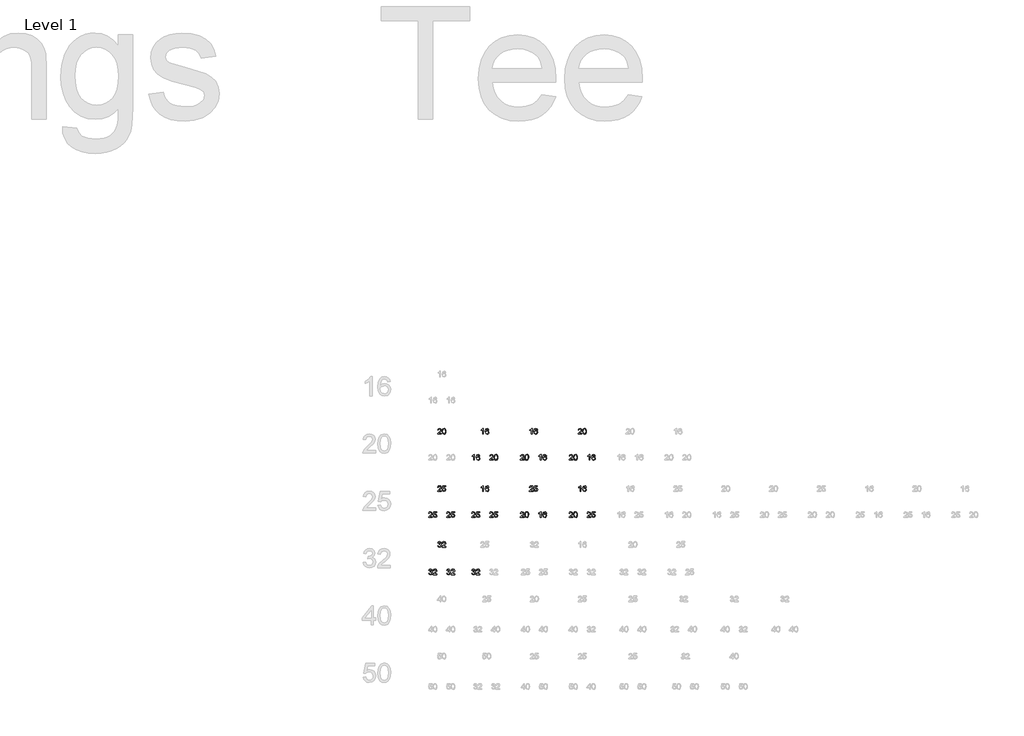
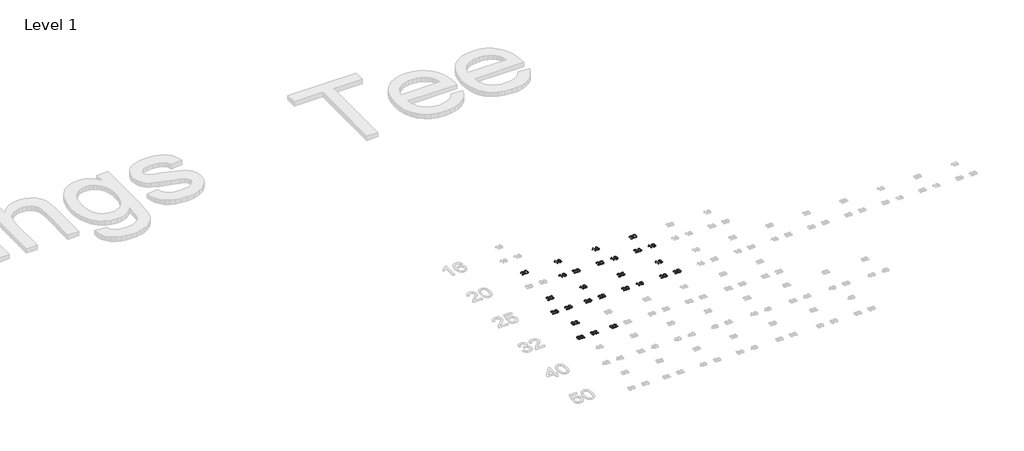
# One storey, part 28 of 58: 26 proxies.
"""IFC4 building model written with IfcOpenShell, lengths in millimetres."""

from ifc_helpers import new_model, si_unit, frame, origin, place, context, project, spatial, polyline, outline, extrude, element, save

model = new_model("IFC4")

# Units and contexts
model_context = context("Model", 3, world=origin())
ifc_project = project(units=[si_unit("LENGTHUNIT", "METRE", prefix="MILLI")], contexts=[model_context])

# Site, building, storey
site = spatial("IfcSite", under=ifc_project)
building = spatial("IfcBuilding", under=site)
storey = spatial("IfcBuildingStorey", under=building, Name="Level 1", Elevation=27.3876384)

# Proxies
placement = place(None, origin())
element("IfcBuildingElementProxy", 1, Name="30mm Arial", ObjectType="30mm Arial", at=placement, inside=storey, context=model_context, shape_type="SweptSolid", body=[
    extrude(outline(polyline([(13113.6749248, 29943.1799576), (13113.6749248, 29939.412846), (13093.8975887, 29939.412846), (13094.3022589, 29942.0100929), (13096.5904849, 29946.0089702), (13101.3067321, 29950.3757295), (13107.8108858, 29956.6517963), (13109.4369242, 29960.9192274), (13107.9028563, 29964.3736394), (13103.8966213, 29965.7826274), (13099.7211607, 29964.4067488), (13098.1355893, 29960.6028489), (13094.3684777, 29961.0737379), (13097.2563513, 29967.3792353), (13103.9775554, 29969.549739), (13110.7208324, 29967.1364332), (13113.2040358, 29961.1473143), (13112.5344906, 29957.5751801), (13110.3088045, 29953.8816449), (13104.9119756, 29948.7202605), (13100.5783257, 29945.0966228), (13098.8787109, 29943.1799576), (13113.6749248, 29943.1799576)])), frame((0.0, 0.0, 27.3876384), z_axis=(0.0, 0.0, 1.0), x_axis=(1.0, 0.0, 0.0)), (0.0, 0.0, 1.0), 2.0),
    extrude(outline(polyline([(13117.4420364, 29954.2384904), (13118.5493612, 29962.909469), (13121.8382262, 29967.9089853), (13127.3307044, 29969.549739), (13131.7305731, 29968.5785306), (13134.7692784, 29965.7789486), (13136.535112, 29961.3202188), (13137.2193725, 29954.2384904), (13136.1230841, 29945.6043), (13132.8452555, 29940.5937472), (13127.3307044, 29938.941957), (13120.4439535, 29941.8114366), (13117.4420364, 29954.2384904)]), holes=[polyline([(13121.209148, 29954.245848), (13122.9749816, 29944.8906089), (13127.3307044, 29942.7090687), (13131.6864273, 29944.8979666), (13133.4522608, 29954.245848), (13131.7452884, 29963.4944014), (13127.2865586, 29965.7826274), (13123.0338427, 29963.7666341), (13121.209148, 29954.245848)])]), frame((0.0, 0.0, 27.3876384), z_axis=(0.0, 0.0, 1.0), x_axis=(1.0, 0.0, 0.0)), (0.0, 0.0, 1.0), 2.0),
])
element("IfcBuildingElementProxy", 2, Name="30mm Arial", ObjectType="30mm Arial", at=placement, inside=storey, context=model_context, shape_type="SweptSolid", body=[
    extrude(outline(polyline([(13286.5669615, 29803.0942054), (13282.7998498, 29803.0942054), (13282.7998498, 29826.579792), (13279.2313945, 29824.0377274), (13275.2656266, 29822.1357775), (13275.2656266, 29825.6968752), (13280.7875353, 29829.2211847), (13284.1389403, 29833.2310985), (13286.5669615, 29833.2310985), (13286.5669615, 29803.0942054)])), frame((0.0, 0.0, 27.3876384), z_axis=(0.0, 0.0, 1.0), x_axis=(1.0, 0.0, 0.0)), (0.0, 0.0, 1.0), 2.0),
    extrude(outline(polyline([(13314.8202987, 29825.2259863), (13311.0531871, 29824.7550973), (13309.6258049, 29827.8968096), (13305.8513357, 29829.4639869), (13302.452106, 29828.5516395), (13299.8806109, 29825.1266581), (13298.8100743, 29818.4128117), (13302.1320487, 29821.4184076), (13306.2486482, 29822.4006525), (13312.6497949, 29819.715114), (13315.2911877, 29812.7768596), (13314.0477465, 29807.578687), (13310.626444, 29803.899867), (13305.6894676, 29802.6233165), (13298.0117703, 29806.0078308), (13295.0429626, 29817.1620129), (13298.3391853, 29829.7950807), (13306.0867801, 29833.2310985), (13312.0391108, 29831.1047406), (13314.8202987, 29825.2259863)]), holes=[polyline([(13298.8100743, 29812.8357207), (13299.6819546, 29809.5726074), (13301.9996112, 29807.2034473), (13305.395162, 29806.3904281), (13309.8354977, 29808.0753277), (13311.524076, 29812.6517797), (13309.8575706, 29817.0332542), (13305.2406516, 29818.6335409), (13300.6825936, 29817.0332542), (13298.8100743, 29812.8357207)])]), frame((0.0, 0.0, 27.3876384), z_axis=(0.0, 0.0, 1.0), x_axis=(1.0, 0.0, 0.0)), (0.0, 0.0, 1.0), 2.0),
])
element("IfcBuildingElementProxy", 3, Name="30mm Arial", ObjectType="30mm Arial", at=placement, inside=storey, context=model_context, shape_type="SweptSolid", body=[
    extrude(outline(polyline([(13385.49674, 29806.8613171), (13385.49674, 29803.0942054), (13365.7194039, 29803.0942054), (13366.1240741, 29805.6914523), (13368.4123001, 29809.6903296), (13373.1285473, 29814.0570889), (13379.632701, 29820.3331557), (13381.2587394, 29824.6005869), (13379.7246715, 29828.0549988), (13375.7184365, 29829.4639869), (13371.5429759, 29828.0881082), (13369.9574045, 29824.2842084), (13366.1902929, 29824.7550973), (13369.0781665, 29831.0605947), (13375.7993706, 29833.2310985), (13382.5426475, 29830.8177926), (13385.025851, 29824.8286737), (13384.3563058, 29821.2565395), (13382.1306197, 29817.5630043), (13376.7337908, 29812.4016199), (13372.4001409, 29808.7779823), (13370.7005261, 29806.8613171), (13385.49674, 29806.8613171)])), frame((0.0, 0.0, 27.3876384), z_axis=(0.0, 0.0, 1.0), x_axis=(1.0, 0.0, 0.0)), (0.0, 0.0, 1.0), 2.0),
    extrude(outline(polyline([(13389.2638516, 29817.9198498), (13390.3711764, 29826.5908285), (13393.6600414, 29831.5903448), (13399.1525196, 29833.2310985), (13403.5523883, 29832.25989), (13406.5910936, 29829.460308), (13408.3569271, 29825.0015783), (13409.0411877, 29817.9198498), (13407.9448993, 29809.2856594), (13404.6670707, 29804.2751066), (13399.1525196, 29802.6233165), (13392.2657687, 29805.492796), (13389.2638516, 29817.9198498)]), holes=[polyline([(13393.0309632, 29817.9272075), (13394.7967968, 29808.5719683), (13399.1525196, 29806.3904281), (13403.5082425, 29808.579326), (13405.274076, 29817.9272075), (13403.5671036, 29827.1757608), (13399.1083738, 29829.4639869), (13394.8556579, 29827.4479935), (13393.0309632, 29817.9272075)])]), frame((0.0, 0.0, 27.3876384), z_axis=(0.0, 0.0, 1.0), x_axis=(1.0, 0.0, 0.0)), (0.0, 0.0, 1.0), 2.0),
])
element("IfcBuildingElementProxy", 4, Name="30mm Arial", ObjectType="30mm Arial", at=placement, inside=storey, context=model_context, shape_type="SweptSolid", body=[
    extrude(outline(polyline([(13333.4951463, 29939.412846), (13329.7280347, 29939.412846), (13329.7280347, 29962.8984326), (13326.1595793, 29960.356368), (13322.1938114, 29958.4544181), (13322.1938114, 29962.0155158), (13327.7157201, 29965.5398253), (13331.0671251, 29969.549739), (13333.4951463, 29969.549739), (13333.4951463, 29939.412846)])), frame((0.0, 0.0, 27.3876384), z_axis=(0.0, 0.0, 1.0), x_axis=(1.0, 0.0, 0.0)), (0.0, 0.0, 1.0), 2.0),
    extrude(outline(polyline([(13361.7484835, 29961.5446268), (13357.9813719, 29961.0737379), (13356.5539897, 29964.2154501), (13352.7795205, 29965.7826274), (13349.3802908, 29964.8702801), (13346.8087957, 29961.4452987), (13345.7382591, 29954.7314523), (13349.0602335, 29957.7370482), (13353.176833, 29958.7192931), (13359.5779797, 29956.0337545), (13362.2193725, 29949.0955001), (13360.9759313, 29943.8973275), (13357.5546288, 29940.2185076), (13352.6176524, 29938.941957), (13344.9399552, 29942.3264714), (13341.9711475, 29953.4806535), (13345.2673701, 29966.1137212), (13353.0149649, 29969.549739), (13358.9672956, 29967.4233811), (13361.7484835, 29961.5446268)]), holes=[polyline([(13345.7382591, 29949.1543612), (13346.6101394, 29945.8912479), (13348.927796, 29943.5220879), (13352.3233468, 29942.7090687), (13356.7636825, 29944.3939682), (13358.4522608, 29948.9704202), (13356.7857554, 29953.3518948), (13352.1688364, 29954.9521815), (13347.6107784, 29953.3518948), (13345.7382591, 29949.1543612)])]), frame((0.0, 0.0, 27.3876384), z_axis=(0.0, 0.0, 1.0), x_axis=(1.0, 0.0, 0.0)), (0.0, 0.0, 1.0), 2.0),
])
element("IfcBuildingElementProxy", 5, Name="30mm Arial", ObjectType="30mm Arial", at=placement, inside=storey, context=model_context, shape_type="SweptSolid", body=[
    extrude(outline(polyline([(13546.74674, 29806.8613171), (13546.74674, 29803.0942054), (13526.9694039, 29803.0942054), (13527.3740741, 29805.6914523), (13529.6623001, 29809.6903296), (13534.3785473, 29814.0570889), (13540.882701, 29820.3331557), (13542.5087394, 29824.6005869), (13540.9746715, 29828.0549988), (13536.9684365, 29829.4639869), (13532.7929759, 29828.0881082), (13531.2074045, 29824.2842084), (13527.4402929, 29824.7550973), (13530.3281665, 29831.0605947), (13537.0493706, 29833.2310985), (13543.7926475, 29830.8177926), (13546.275851, 29824.8286737), (13545.6063058, 29821.2565395), (13543.3806197, 29817.5630043), (13537.9837908, 29812.4016199), (13533.6501409, 29808.7779823), (13531.9505261, 29806.8613171), (13546.74674, 29806.8613171)])), frame((0.0, 0.0, 27.3876384), z_axis=(0.0, 0.0, 1.0), x_axis=(1.0, 0.0, 0.0)), (0.0, 0.0, 1.0), 2.0),
    extrude(outline(polyline([(13550.5138516, 29817.9198498), (13551.6211764, 29826.5908285), (13554.9100414, 29831.5903448), (13560.4025196, 29833.2310985), (13564.8023883, 29832.25989), (13567.8410936, 29829.460308), (13569.6069271, 29825.0015783), (13570.2911877, 29817.9198498), (13569.1948993, 29809.2856594), (13565.9170707, 29804.2751066), (13560.4025196, 29802.6233165), (13553.5157687, 29805.492796), (13550.5138516, 29817.9198498)]), holes=[polyline([(13554.2809632, 29817.9272075), (13556.0467968, 29808.5719683), (13560.4025196, 29806.3904281), (13564.7582425, 29808.579326), (13566.524076, 29817.9272075), (13564.8171036, 29827.1757608), (13560.3583738, 29829.4639869), (13556.1056579, 29827.4479935), (13554.2809632, 29817.9272075)])]), frame((0.0, 0.0, 27.3876384), z_axis=(0.0, 0.0, 1.0), x_axis=(1.0, 0.0, 0.0)), (0.0, 0.0, 1.0), 2.0),
])
element("IfcBuildingElementProxy", 6, Name="30mm Arial", ObjectType="30mm Arial", at=placement, inside=storey, context=model_context, shape_type="SweptSolid", body=[
    extrude(outline(polyline([(13635.3169615, 29803.0942054), (13631.5498498, 29803.0942054), (13631.5498498, 29826.579792), (13627.9813945, 29824.0377274), (13624.0156266, 29822.1357775), (13624.0156266, 29825.6968752), (13629.5375353, 29829.2211847), (13632.8889403, 29833.2310985), (13635.3169615, 29833.2310985), (13635.3169615, 29803.0942054)])), frame((0.0, 0.0, 27.3876384), z_axis=(0.0, 0.0, 1.0), x_axis=(1.0, 0.0, 0.0)), (0.0, 0.0, 1.0), 2.0),
    extrude(outline(polyline([(13663.5702987, 29825.2259863), (13659.8031871, 29824.7550973), (13658.3758049, 29827.8968096), (13654.6013357, 29829.4639869), (13651.202106, 29828.5516395), (13648.6306109, 29825.1266581), (13647.5600743, 29818.4128117), (13650.8820487, 29821.4184076), (13654.9986482, 29822.4006525), (13661.3997949, 29819.715114), (13664.0411877, 29812.7768596), (13662.7977465, 29807.578687), (13659.376444, 29803.899867), (13654.4394676, 29802.6233165), (13646.7617703, 29806.0078308), (13643.7929626, 29817.1620129), (13647.0891853, 29829.7950807), (13654.8367801, 29833.2310985), (13660.7891108, 29831.1047406), (13663.5702987, 29825.2259863)]), holes=[polyline([(13647.5600743, 29812.8357207), (13648.4319546, 29809.5726074), (13650.7496112, 29807.2034473), (13654.145162, 29806.3904281), (13658.5854977, 29808.0753277), (13660.274076, 29812.6517797), (13658.6075706, 29817.0332542), (13653.9906516, 29818.6335409), (13649.4325936, 29817.0332542), (13647.5600743, 29812.8357207)])]), frame((0.0, 0.0, 27.3876384), z_axis=(0.0, 0.0, 1.0), x_axis=(1.0, 0.0, 0.0)), (0.0, 0.0, 1.0), 2.0),
])
element("IfcBuildingElementProxy", 7, Name="30mm Arial", ObjectType="30mm Arial", at=placement, inside=storey, context=model_context, shape_type="SweptSolid", body=[
    extrude(outline(polyline([(13588.4951463, 29939.412846), (13584.7280347, 29939.412846), (13584.7280347, 29962.8984326), (13581.1595793, 29960.356368), (13577.1938114, 29958.4544181), (13577.1938114, 29962.0155158), (13582.7157201, 29965.5398253), (13586.0671251, 29969.549739), (13588.4951463, 29969.549739), (13588.4951463, 29939.412846)])), frame((0.0, 0.0, 27.3876384), z_axis=(0.0, 0.0, 1.0), x_axis=(1.0, 0.0, 0.0)), (0.0, 0.0, 1.0), 2.0),
    extrude(outline(polyline([(13616.7484835, 29961.5446268), (13612.9813719, 29961.0737379), (13611.5539897, 29964.2154501), (13607.7795205, 29965.7826274), (13604.3802908, 29964.8702801), (13601.8087957, 29961.4452987), (13600.7382591, 29954.7314523), (13604.0602335, 29957.7370482), (13608.176833, 29958.7192931), (13614.5779797, 29956.0337545), (13617.2193725, 29949.0955001), (13615.9759313, 29943.8973275), (13612.5546288, 29940.2185076), (13607.6176524, 29938.941957), (13599.9399552, 29942.3264714), (13596.9711475, 29953.4806535), (13600.2673701, 29966.1137212), (13608.0149649, 29969.549739), (13613.9672956, 29967.4233811), (13616.7484835, 29961.5446268)]), holes=[polyline([(13600.7382591, 29949.1543612), (13601.6101394, 29945.8912479), (13603.927796, 29943.5220879), (13607.3233468, 29942.7090687), (13611.7636825, 29944.3939682), (13613.4522608, 29948.9704202), (13611.7857554, 29953.3518948), (13607.1688364, 29954.9521815), (13602.6107784, 29953.3518948), (13600.7382591, 29949.1543612)])]), frame((0.0, 0.0, 27.3876384), z_axis=(0.0, 0.0, 1.0), x_axis=(1.0, 0.0, 0.0)), (0.0, 0.0, 1.0), 2.0),
])
element("IfcBuildingElementProxy", 8, Name="30mm Arial", ObjectType="30mm Arial", at=placement, inside=storey, context=model_context, shape_type="SweptSolid", body=[
    extrude(outline(polyline([(13801.74674, 29806.8613171), (13801.74674, 29803.0942054), (13781.9694039, 29803.0942054), (13782.3740741, 29805.6914523), (13784.6623001, 29809.6903296), (13789.3785473, 29814.0570889), (13795.882701, 29820.3331557), (13797.5087394, 29824.6005869), (13795.9746715, 29828.0549988), (13791.9684365, 29829.4639869), (13787.7929759, 29828.0881082), (13786.2074045, 29824.2842084), (13782.4402929, 29824.7550973), (13785.3281665, 29831.0605947), (13792.0493706, 29833.2310985), (13798.7926475, 29830.8177926), (13801.275851, 29824.8286737), (13800.6063058, 29821.2565395), (13798.3806197, 29817.5630043), (13792.9837908, 29812.4016199), (13788.6501409, 29808.7779823), (13786.9505261, 29806.8613171), (13801.74674, 29806.8613171)])), frame((0.0, 0.0, 27.3876384), z_axis=(0.0, 0.0, 1.0), x_axis=(1.0, 0.0, 0.0)), (0.0, 0.0, 1.0), 2.0),
    extrude(outline(polyline([(13805.5138516, 29817.9198498), (13806.6211764, 29826.5908285), (13809.9100414, 29831.5903448), (13815.4025196, 29833.2310985), (13819.8023883, 29832.25989), (13822.8410936, 29829.460308), (13824.6069271, 29825.0015783), (13825.2911877, 29817.9198498), (13824.1948993, 29809.2856594), (13820.9170707, 29804.2751066), (13815.4025196, 29802.6233165), (13808.5157687, 29805.492796), (13805.5138516, 29817.9198498)]), holes=[polyline([(13809.2809632, 29817.9272075), (13811.0467968, 29808.5719683), (13815.4025196, 29806.3904281), (13819.7582425, 29808.579326), (13821.524076, 29817.9272075), (13819.8171036, 29827.1757608), (13815.3583738, 29829.4639869), (13811.1056579, 29827.4479935), (13809.2809632, 29817.9272075)])]), frame((0.0, 0.0, 27.3876384), z_axis=(0.0, 0.0, 1.0), x_axis=(1.0, 0.0, 0.0)), (0.0, 0.0, 1.0), 2.0),
])
element("IfcBuildingElementProxy", 9, Name="30mm Arial", ObjectType="30mm Arial", at=placement, inside=storey, context=model_context, shape_type="SweptSolid", body=[
    extrude(outline(polyline([(13890.3169615, 29803.0942054), (13886.5498498, 29803.0942054), (13886.5498498, 29826.579792), (13882.9813945, 29824.0377274), (13879.0156266, 29822.1357775), (13879.0156266, 29825.6968752), (13884.5375353, 29829.2211847), (13887.8889403, 29833.2310985), (13890.3169615, 29833.2310985), (13890.3169615, 29803.0942054)])), frame((0.0, 0.0, 27.3876384), z_axis=(0.0, 0.0, 1.0), x_axis=(1.0, 0.0, 0.0)), (0.0, 0.0, 1.0), 2.0),
    extrude(outline(polyline([(13918.5702987, 29825.2259863), (13914.8031871, 29824.7550973), (13913.3758049, 29827.8968096), (13909.6013357, 29829.4639869), (13906.202106, 29828.5516395), (13903.6306109, 29825.1266581), (13902.5600743, 29818.4128117), (13905.8820487, 29821.4184076), (13909.9986482, 29822.4006525), (13916.3997949, 29819.715114), (13919.0411877, 29812.7768596), (13917.7977465, 29807.578687), (13914.376444, 29803.899867), (13909.4394676, 29802.6233165), (13901.7617703, 29806.0078308), (13898.7929626, 29817.1620129), (13902.0891853, 29829.7950807), (13909.8367801, 29833.2310985), (13915.7891108, 29831.1047406), (13918.5702987, 29825.2259863)]), holes=[polyline([(13902.5600743, 29812.8357207), (13903.4319546, 29809.5726074), (13905.7496112, 29807.2034473), (13909.145162, 29806.3904281), (13913.5854977, 29808.0753277), (13915.274076, 29812.6517797), (13913.6075706, 29817.0332542), (13908.9906516, 29818.6335409), (13904.4325936, 29817.0332542), (13902.5600743, 29812.8357207)])]), frame((0.0, 0.0, 27.3876384), z_axis=(0.0, 0.0, 1.0), x_axis=(1.0, 0.0, 0.0)), (0.0, 0.0, 1.0), 2.0),
])
element("IfcBuildingElementProxy", 10, Name="30mm Arial", ObjectType="30mm Arial", at=placement, inside=storey, context=model_context, shape_type="SweptSolid", body=[
    extrude(outline(polyline([(13848.6749248, 29943.1799576), (13848.6749248, 29939.412846), (13828.8975887, 29939.412846), (13829.3022589, 29942.0100929), (13831.5904849, 29946.0089702), (13836.3067321, 29950.3757295), (13842.8108858, 29956.6517963), (13844.4369242, 29960.9192274), (13842.9028563, 29964.3736394), (13838.8966213, 29965.7826274), (13834.7211607, 29964.4067488), (13833.1355893, 29960.6028489), (13829.3684777, 29961.0737379), (13832.2563513, 29967.3792353), (13838.9775554, 29969.549739), (13845.7208324, 29967.1364332), (13848.2040358, 29961.1473143), (13847.5344906, 29957.5751801), (13845.3088045, 29953.8816449), (13839.9119756, 29948.7202605), (13835.5783257, 29945.0966228), (13833.8787109, 29943.1799576), (13848.6749248, 29943.1799576)])), frame((0.0, 0.0, 27.3876384), z_axis=(0.0, 0.0, 1.0), x_axis=(1.0, 0.0, 0.0)), (0.0, 0.0, 1.0), 2.0),
    extrude(outline(polyline([(13852.4420364, 29954.2384904), (13853.5493612, 29962.909469), (13856.8382262, 29967.9089853), (13862.3307044, 29969.549739), (13866.7305731, 29968.5785306), (13869.7692784, 29965.7789486), (13871.535112, 29961.3202188), (13872.2193725, 29954.2384904), (13871.1230841, 29945.6043), (13867.8452555, 29940.5937472), (13862.3307044, 29938.941957), (13855.4439535, 29941.8114366), (13852.4420364, 29954.2384904)]), holes=[polyline([(13856.209148, 29954.245848), (13857.9749816, 29944.8906089), (13862.3307044, 29942.7090687), (13866.6864273, 29944.8979666), (13868.4522608, 29954.245848), (13866.7452884, 29963.4944014), (13862.2865586, 29965.7826274), (13858.0338427, 29963.7666341), (13856.209148, 29954.245848)])]), frame((0.0, 0.0, 27.3876384), z_axis=(0.0, 0.0, 1.0), x_axis=(1.0, 0.0, 0.0)), (0.0, 0.0, 1.0), 2.0),
])
element("IfcBuildingElementProxy", 11, Name="30mm Arial", ObjectType="30mm Arial", at=placement, inside=storey, context=model_context, shape_type="SweptSolid", body=[
    extrude(outline(polyline([(13066.74674, 29506.8613171), (13066.74674, 29503.0942054), (13046.9694039, 29503.0942054), (13047.3740741, 29505.6914523), (13049.6623001, 29509.6903296), (13054.3785473, 29514.0570889), (13060.882701, 29520.3331557), (13062.5087394, 29524.6005869), (13060.9746715, 29528.0549988), (13056.9684365, 29529.4639869), (13052.7929759, 29528.0881082), (13051.2074045, 29524.2842084), (13047.4402929, 29524.7550973), (13050.3281665, 29531.0605947), (13057.0493706, 29533.2310985), (13063.7926475, 29530.8177926), (13066.275851, 29524.8286737), (13065.6063058, 29521.2565395), (13063.3806197, 29517.5630043), (13057.9837908, 29512.4016199), (13053.6501409, 29508.7779823), (13051.9505261, 29506.8613171), (13066.74674, 29506.8613171)])), frame((0.0, 0.0, 27.3876384), z_axis=(0.0, 0.0, 1.0), x_axis=(1.0, 0.0, 0.0)), (0.0, 0.0, 1.0), 2.0),
    extrude(outline(polyline([(13070.5138516, 29511.0993177), (13074.2809632, 29511.5702066), (13076.1792343, 29507.6890516), (13080.1155717, 29506.3904281), (13084.8391765, 29508.1967287), (13086.524076, 29512.9902311), (13084.9458623, 29517.4636762), (13080.1744328, 29519.1044299), (13076.8671737, 29518.4495999), (13074.7518522, 29516.7499851), (13070.9847406, 29517.2208741), (13074.2809632, 29532.7602095), (13088.8785208, 29532.7602095), (13088.8785208, 29528.9930979), (13077.3270262, 29528.9930979), (13075.715703, 29520.6936801), (13081.2265753, 29522.8715415), (13087.668189, 29520.1712877), (13090.2911877, 29513.2256756), (13087.9293853, 29506.2359177), (13080.1008564, 29502.6233165), (13073.4532287, 29504.9446519), (13070.5138516, 29511.0993177)])), frame((0.0, 0.0, 27.3876384), z_axis=(0.0, 0.0, 1.0), x_axis=(1.0, 0.0, 0.0)), (0.0, 0.0, 1.0), 2.0),
])
element("IfcBuildingElementProxy", 12, Name="30mm Arial", ObjectType="30mm Arial", at=placement, inside=storey, context=model_context, shape_type="SweptSolid", body=[
    extrude(outline(polyline([(13160.49674, 29506.8613171), (13160.49674, 29503.0942054), (13140.7194039, 29503.0942054), (13141.1240741, 29505.6914523), (13143.4123001, 29509.6903296), (13148.1285473, 29514.0570889), (13154.632701, 29520.3331557), (13156.2587394, 29524.6005869), (13154.7246715, 29528.0549988), (13150.7184365, 29529.4639869), (13146.5429759, 29528.0881082), (13144.9574045, 29524.2842084), (13141.1902929, 29524.7550973), (13144.0781665, 29531.0605947), (13150.7993706, 29533.2310985), (13157.5426475, 29530.8177926), (13160.025851, 29524.8286737), (13159.3563058, 29521.2565395), (13157.1306197, 29517.5630043), (13151.7337908, 29512.4016199), (13147.4001409, 29508.7779823), (13145.7005261, 29506.8613171), (13160.49674, 29506.8613171)])), frame((0.0, 0.0, 27.3876384), z_axis=(0.0, 0.0, 1.0), x_axis=(1.0, 0.0, 0.0)), (0.0, 0.0, 1.0), 2.0),
    extrude(outline(polyline([(13164.2638516, 29511.0993177), (13168.0309632, 29511.5702066), (13169.9292343, 29507.6890516), (13173.8655717, 29506.3904281), (13178.5891765, 29508.1967287), (13180.274076, 29512.9902311), (13178.6958623, 29517.4636762), (13173.9244328, 29519.1044299), (13170.6171737, 29518.4495999), (13168.5018522, 29516.7499851), (13164.7347406, 29517.2208741), (13168.0309632, 29532.7602095), (13182.6285208, 29532.7602095), (13182.6285208, 29528.9930979), (13171.0770262, 29528.9930979), (13169.465703, 29520.6936801), (13174.9765753, 29522.8715415), (13181.418189, 29520.1712877), (13184.0411877, 29513.2256756), (13181.6793853, 29506.2359177), (13173.8508564, 29502.6233165), (13167.2032287, 29504.9446519), (13164.2638516, 29511.0993177)])), frame((0.0, 0.0, 27.3876384), z_axis=(0.0, 0.0, 1.0), x_axis=(1.0, 0.0, 0.0)), (0.0, 0.0, 1.0), 2.0),
])
element("IfcBuildingElementProxy", 13, Name="30mm Arial", ObjectType="30mm Arial", at=placement, inside=storey, context=model_context, shape_type="SweptSolid", body=[
    extrude(outline(polyline([(13113.6749248, 29643.1799576), (13113.6749248, 29639.412846), (13093.8975887, 29639.412846), (13094.3022589, 29642.0100929), (13096.5904849, 29646.0089702), (13101.3067321, 29650.3757295), (13107.8108858, 29656.6517963), (13109.4369242, 29660.9192274), (13107.9028563, 29664.3736394), (13103.8966213, 29665.7826274), (13099.7211607, 29664.4067488), (13098.1355893, 29660.6028489), (13094.3684777, 29661.0737379), (13097.2563513, 29667.3792353), (13103.9775554, 29669.549739), (13110.7208324, 29667.1364332), (13113.2040358, 29661.1473143), (13112.5344906, 29657.5751801), (13110.3088045, 29653.8816449), (13104.9119756, 29648.7202605), (13100.5783257, 29645.0966228), (13098.8787109, 29643.1799576), (13113.6749248, 29643.1799576)])), frame((0.0, 0.0, 27.3876384), z_axis=(0.0, 0.0, 1.0), x_axis=(1.0, 0.0, 0.0)), (0.0, 0.0, 1.0), 2.0),
    extrude(outline(polyline([(13117.4420364, 29647.4179582), (13121.209148, 29647.8888472), (13123.1074191, 29644.0076921), (13127.0437565, 29642.7090687), (13131.7673613, 29644.5153693), (13133.4522608, 29649.3088717), (13131.8740471, 29653.7823167), (13127.1026176, 29655.4230704), (13123.7953585, 29654.7682405), (13121.680037, 29653.0686257), (13117.9129254, 29653.5395146), (13121.209148, 29669.0788501), (13135.8067056, 29669.0788501), (13135.8067056, 29665.3117385), (13124.255211, 29665.3117385), (13122.6438878, 29657.0123207), (13128.1547601, 29659.1901821), (13134.5963738, 29656.4899282), (13137.2193725, 29649.5443161), (13134.8575701, 29642.5545582), (13127.0290412, 29638.941957), (13120.3814135, 29641.2632924), (13117.4420364, 29647.4179582)])), frame((0.0, 0.0, 27.3876384), z_axis=(0.0, 0.0, 1.0), x_axis=(1.0, 0.0, 0.0)), (0.0, 0.0, 1.0), 2.0),
])
element("IfcBuildingElementProxy", 14, Name="30mm Arial", ObjectType="30mm Arial", at=placement, inside=storey, context=model_context, shape_type="SweptSolid", body=[
    extrude(outline(polyline([(13291.74674, 29506.8613171), (13291.74674, 29503.0942054), (13271.9694039, 29503.0942054), (13272.3740741, 29505.6914523), (13274.6623001, 29509.6903296), (13279.3785473, 29514.0570889), (13285.882701, 29520.3331557), (13287.5087394, 29524.6005869), (13285.9746715, 29528.0549988), (13281.9684365, 29529.4639869), (13277.7929759, 29528.0881082), (13276.2074045, 29524.2842084), (13272.4402929, 29524.7550973), (13275.3281665, 29531.0605947), (13282.0493706, 29533.2310985), (13288.7926475, 29530.8177926), (13291.275851, 29524.8286737), (13290.6063058, 29521.2565395), (13288.3806197, 29517.5630043), (13282.9837908, 29512.4016199), (13278.6501409, 29508.7779823), (13276.9505261, 29506.8613171), (13291.74674, 29506.8613171)])), frame((0.0, 0.0, 27.3876384), z_axis=(0.0, 0.0, 1.0), x_axis=(1.0, 0.0, 0.0)), (0.0, 0.0, 1.0), 2.0),
    extrude(outline(polyline([(13295.5138516, 29511.0993177), (13299.2809632, 29511.5702066), (13301.1792343, 29507.6890516), (13305.1155717, 29506.3904281), (13309.8391765, 29508.1967287), (13311.524076, 29512.9902311), (13309.9458623, 29517.4636762), (13305.1744328, 29519.1044299), (13301.8671737, 29518.4495999), (13299.7518522, 29516.7499851), (13295.9847406, 29517.2208741), (13299.2809632, 29532.7602095), (13313.8785208, 29532.7602095), (13313.8785208, 29528.9930979), (13302.3270262, 29528.9930979), (13300.715703, 29520.6936801), (13306.2265753, 29522.8715415), (13312.668189, 29520.1712877), (13315.2911877, 29513.2256756), (13312.9293853, 29506.2359177), (13305.1008564, 29502.6233165), (13298.4532287, 29504.9446519), (13295.5138516, 29511.0993177)])), frame((0.0, 0.0, 27.3876384), z_axis=(0.0, 0.0, 1.0), x_axis=(1.0, 0.0, 0.0)), (0.0, 0.0, 1.0), 2.0),
])
element("IfcBuildingElementProxy", 15, Name="30mm Arial", ObjectType="30mm Arial", at=placement, inside=storey, context=model_context, shape_type="SweptSolid", body=[
    extrude(outline(polyline([(13385.49674, 29506.8613171), (13385.49674, 29503.0942054), (13365.7194039, 29503.0942054), (13366.1240741, 29505.6914523), (13368.4123001, 29509.6903296), (13373.1285473, 29514.0570889), (13379.632701, 29520.3331557), (13381.2587394, 29524.6005869), (13379.7246715, 29528.0549988), (13375.7184365, 29529.4639869), (13371.5429759, 29528.0881082), (13369.9574045, 29524.2842084), (13366.1902929, 29524.7550973), (13369.0781665, 29531.0605947), (13375.7993706, 29533.2310985), (13382.5426475, 29530.8177926), (13385.025851, 29524.8286737), (13384.3563058, 29521.2565395), (13382.1306197, 29517.5630043), (13376.7337908, 29512.4016199), (13372.4001409, 29508.7779823), (13370.7005261, 29506.8613171), (13385.49674, 29506.8613171)])), frame((0.0, 0.0, 27.3876384), z_axis=(0.0, 0.0, 1.0), x_axis=(1.0, 0.0, 0.0)), (0.0, 0.0, 1.0), 2.0),
    extrude(outline(polyline([(13389.2638516, 29511.0993177), (13393.0309632, 29511.5702066), (13394.9292343, 29507.6890516), (13398.8655717, 29506.3904281), (13403.5891765, 29508.1967287), (13405.274076, 29512.9902311), (13403.6958623, 29517.4636762), (13398.9244328, 29519.1044299), (13395.6171737, 29518.4495999), (13393.5018522, 29516.7499851), (13389.7347406, 29517.2208741), (13393.0309632, 29532.7602095), (13407.6285208, 29532.7602095), (13407.6285208, 29528.9930979), (13396.0770262, 29528.9930979), (13394.465703, 29520.6936801), (13399.9765753, 29522.8715415), (13406.418189, 29520.1712877), (13409.0411877, 29513.2256756), (13406.6793853, 29506.2359177), (13398.8508564, 29502.6233165), (13392.2032287, 29504.9446519), (13389.2638516, 29511.0993177)])), frame((0.0, 0.0, 27.3876384), z_axis=(0.0, 0.0, 1.0), x_axis=(1.0, 0.0, 0.0)), (0.0, 0.0, 1.0), 2.0),
])
element("IfcBuildingElementProxy", 16, Name="30mm Arial", ObjectType="30mm Arial", at=placement, inside=storey, context=model_context, shape_type="SweptSolid", body=[
    extrude(outline(polyline([(13333.4951463, 29639.412846), (13329.7280347, 29639.412846), (13329.7280347, 29662.8984326), (13326.1595793, 29660.356368), (13322.1938114, 29658.4544181), (13322.1938114, 29662.0155158), (13327.7157201, 29665.5398253), (13331.0671251, 29669.549739), (13333.4951463, 29669.549739), (13333.4951463, 29639.412846)])), frame((0.0, 0.0, 27.3876384), z_axis=(0.0, 0.0, 1.0), x_axis=(1.0, 0.0, 0.0)), (0.0, 0.0, 1.0), 2.0),
    extrude(outline(polyline([(13361.7484835, 29661.5446268), (13357.9813719, 29661.0737379), (13356.5539897, 29664.2154501), (13352.7795205, 29665.7826274), (13349.3802908, 29664.8702801), (13346.8087957, 29661.4452987), (13345.7382591, 29654.7314523), (13349.0602335, 29657.7370482), (13353.176833, 29658.7192931), (13359.5779797, 29656.0337545), (13362.2193725, 29649.0955001), (13360.9759313, 29643.8973275), (13357.5546288, 29640.2185076), (13352.6176524, 29638.941957), (13344.9399552, 29642.3264714), (13341.9711475, 29653.4806535), (13345.2673701, 29666.1137212), (13353.0149649, 29669.549739), (13358.9672956, 29667.4233811), (13361.7484835, 29661.5446268)]), holes=[polyline([(13345.7382591, 29649.1543612), (13346.6101394, 29645.8912479), (13348.927796, 29643.5220879), (13352.3233468, 29642.7090687), (13356.7636825, 29644.3939682), (13358.4522608, 29648.9704202), (13356.7857554, 29653.3518948), (13352.1688364, 29654.9521815), (13347.6107784, 29653.3518948), (13345.7382591, 29649.1543612)])]), frame((0.0, 0.0, 27.3876384), z_axis=(0.0, 0.0, 1.0), x_axis=(1.0, 0.0, 0.0)), (0.0, 0.0, 1.0), 2.0),
])
element("IfcBuildingElementProxy", 17, Name="30mm Arial", ObjectType="30mm Arial", at=placement, inside=storey, context=model_context, shape_type="SweptSolid", body=[
    extrude(outline(polyline([(13546.74674, 29506.8613171), (13546.74674, 29503.0942054), (13526.9694039, 29503.0942054), (13527.3740741, 29505.6914523), (13529.6623001, 29509.6903296), (13534.3785473, 29514.0570889), (13540.882701, 29520.3331557), (13542.5087394, 29524.6005869), (13540.9746715, 29528.0549988), (13536.9684365, 29529.4639869), (13532.7929759, 29528.0881082), (13531.2074045, 29524.2842084), (13527.4402929, 29524.7550973), (13530.3281665, 29531.0605947), (13537.0493706, 29533.2310985), (13543.7926475, 29530.8177926), (13546.275851, 29524.8286737), (13545.6063058, 29521.2565395), (13543.3806197, 29517.5630043), (13537.9837908, 29512.4016199), (13533.6501409, 29508.7779823), (13531.9505261, 29506.8613171), (13546.74674, 29506.8613171)])), frame((0.0, 0.0, 27.3876384), z_axis=(0.0, 0.0, 1.0), x_axis=(1.0, 0.0, 0.0)), (0.0, 0.0, 1.0), 2.0),
    extrude(outline(polyline([(13550.5138516, 29517.9198498), (13551.6211764, 29526.5908285), (13554.9100414, 29531.5903448), (13560.4025196, 29533.2310985), (13564.8023883, 29532.25989), (13567.8410936, 29529.460308), (13569.6069271, 29525.0015783), (13570.2911877, 29517.9198498), (13569.1948993, 29509.2856594), (13565.9170707, 29504.2751066), (13560.4025196, 29502.6233165), (13553.5157687, 29505.492796), (13550.5138516, 29517.9198498)]), holes=[polyline([(13554.2809632, 29517.9272075), (13556.0467968, 29508.5719683), (13560.4025196, 29506.3904281), (13564.7582425, 29508.579326), (13566.524076, 29517.9272075), (13564.8171036, 29527.1757608), (13560.3583738, 29529.4639869), (13556.1056579, 29527.4479935), (13554.2809632, 29517.9272075)])]), frame((0.0, 0.0, 27.3876384), z_axis=(0.0, 0.0, 1.0), x_axis=(1.0, 0.0, 0.0)), (0.0, 0.0, 1.0), 2.0),
])
element("IfcBuildingElementProxy", 18, Name="30mm Arial", ObjectType="30mm Arial", at=placement, inside=storey, context=model_context, shape_type="SweptSolid", body=[
    extrude(outline(polyline([(13635.3169615, 29503.0942054), (13631.5498498, 29503.0942054), (13631.5498498, 29526.579792), (13627.9813945, 29524.0377274), (13624.0156266, 29522.1357775), (13624.0156266, 29525.6968752), (13629.5375353, 29529.2211847), (13632.8889403, 29533.2310985), (13635.3169615, 29533.2310985), (13635.3169615, 29503.0942054)])), frame((0.0, 0.0, 27.3876384), z_axis=(0.0, 0.0, 1.0), x_axis=(1.0, 0.0, 0.0)), (0.0, 0.0, 1.0), 2.0),
    extrude(outline(polyline([(13663.5702987, 29525.2259863), (13659.8031871, 29524.7550973), (13658.3758049, 29527.8968096), (13654.6013357, 29529.4639869), (13651.202106, 29528.5516395), (13648.6306109, 29525.1266581), (13647.5600743, 29518.4128117), (13650.8820487, 29521.4184076), (13654.9986482, 29522.4006525), (13661.3997949, 29519.715114), (13664.0411877, 29512.7768596), (13662.7977465, 29507.578687), (13659.376444, 29503.899867), (13654.4394676, 29502.6233165), (13646.7617703, 29506.0078308), (13643.7929626, 29517.1620129), (13647.0891853, 29529.7950807), (13654.8367801, 29533.2310985), (13660.7891108, 29531.1047406), (13663.5702987, 29525.2259863)]), holes=[polyline([(13647.5600743, 29512.8357207), (13648.4319546, 29509.5726074), (13650.7496112, 29507.2034473), (13654.145162, 29506.3904281), (13658.5854977, 29508.0753277), (13660.274076, 29512.6517797), (13658.6075706, 29517.0332542), (13653.9906516, 29518.6335409), (13649.4325936, 29517.0332542), (13647.5600743, 29512.8357207)])]), frame((0.0, 0.0, 27.3876384), z_axis=(0.0, 0.0, 1.0), x_axis=(1.0, 0.0, 0.0)), (0.0, 0.0, 1.0), 2.0),
])
element("IfcBuildingElementProxy", 19, Name="30mm Arial", ObjectType="30mm Arial", at=placement, inside=storey, context=model_context, shape_type="SweptSolid", body=[
    extrude(outline(polyline([(13593.6749248, 29643.1799576), (13593.6749248, 29639.412846), (13573.8975887, 29639.412846), (13574.3022589, 29642.0100929), (13576.5904849, 29646.0089702), (13581.3067321, 29650.3757295), (13587.8108858, 29656.6517963), (13589.4369242, 29660.9192274), (13587.9028563, 29664.3736394), (13583.8966213, 29665.7826274), (13579.7211607, 29664.4067488), (13578.1355893, 29660.6028489), (13574.3684777, 29661.0737379), (13577.2563513, 29667.3792353), (13583.9775554, 29669.549739), (13590.7208324, 29667.1364332), (13593.2040358, 29661.1473143), (13592.5344906, 29657.5751801), (13590.3088045, 29653.8816449), (13584.9119756, 29648.7202605), (13580.5783257, 29645.0966228), (13578.8787109, 29643.1799576), (13593.6749248, 29643.1799576)])), frame((0.0, 0.0, 27.3876384), z_axis=(0.0, 0.0, 1.0), x_axis=(1.0, 0.0, 0.0)), (0.0, 0.0, 1.0), 2.0),
    extrude(outline(polyline([(13597.4420364, 29647.4179582), (13601.209148, 29647.8888472), (13603.1074191, 29644.0076921), (13607.0437565, 29642.7090687), (13611.7673613, 29644.5153693), (13613.4522608, 29649.3088717), (13611.8740471, 29653.7823167), (13607.1026176, 29655.4230704), (13603.7953585, 29654.7682405), (13601.680037, 29653.0686257), (13597.9129254, 29653.5395146), (13601.209148, 29669.0788501), (13615.8067056, 29669.0788501), (13615.8067056, 29665.3117385), (13604.255211, 29665.3117385), (13602.6438878, 29657.0123207), (13608.1547601, 29659.1901821), (13614.5963738, 29656.4899282), (13617.2193725, 29649.5443161), (13614.8575701, 29642.5545582), (13607.0290412, 29638.941957), (13600.3814135, 29641.2632924), (13597.4420364, 29647.4179582)])), frame((0.0, 0.0, 27.3876384), z_axis=(0.0, 0.0, 1.0), x_axis=(1.0, 0.0, 0.0)), (0.0, 0.0, 1.0), 2.0),
])
element("IfcBuildingElementProxy", 20, Name="30mm Arial", ObjectType="30mm Arial", at=placement, inside=storey, context=model_context, shape_type="SweptSolid", body=[
    extrude(outline(polyline([(13801.74674, 29506.8613171), (13801.74674, 29503.0942054), (13781.9694039, 29503.0942054), (13782.3740741, 29505.6914523), (13784.6623001, 29509.6903296), (13789.3785473, 29514.0570889), (13795.882701, 29520.3331557), (13797.5087394, 29524.6005869), (13795.9746715, 29528.0549988), (13791.9684365, 29529.4639869), (13787.7929759, 29528.0881082), (13786.2074045, 29524.2842084), (13782.4402929, 29524.7550973), (13785.3281665, 29531.0605947), (13792.0493706, 29533.2310985), (13798.7926475, 29530.8177926), (13801.275851, 29524.8286737), (13800.6063058, 29521.2565395), (13798.3806197, 29517.5630043), (13792.9837908, 29512.4016199), (13788.6501409, 29508.7779823), (13786.9505261, 29506.8613171), (13801.74674, 29506.8613171)])), frame((0.0, 0.0, 27.3876384), z_axis=(0.0, 0.0, 1.0), x_axis=(1.0, 0.0, 0.0)), (0.0, 0.0, 1.0), 2.0),
    extrude(outline(polyline([(13805.5138516, 29517.9198498), (13806.6211764, 29526.5908285), (13809.9100414, 29531.5903448), (13815.4025196, 29533.2310985), (13819.8023883, 29532.25989), (13822.8410936, 29529.460308), (13824.6069271, 29525.0015783), (13825.2911877, 29517.9198498), (13824.1948993, 29509.2856594), (13820.9170707, 29504.2751066), (13815.4025196, 29502.6233165), (13808.5157687, 29505.492796), (13805.5138516, 29517.9198498)]), holes=[polyline([(13809.2809632, 29517.9272075), (13811.0467968, 29508.5719683), (13815.4025196, 29506.3904281), (13819.7582425, 29508.579326), (13821.524076, 29517.9272075), (13819.8171036, 29527.1757608), (13815.3583738, 29529.4639869), (13811.1056579, 29527.4479935), (13809.2809632, 29517.9272075)])]), frame((0.0, 0.0, 27.3876384), z_axis=(0.0, 0.0, 1.0), x_axis=(1.0, 0.0, 0.0)), (0.0, 0.0, 1.0), 2.0),
])
element("IfcBuildingElementProxy", 21, Name="30mm Arial", ObjectType="30mm Arial", at=placement, inside=storey, context=model_context, shape_type="SweptSolid", body=[
    extrude(outline(polyline([(13895.49674, 29506.8613171), (13895.49674, 29503.0942054), (13875.7194039, 29503.0942054), (13876.1240741, 29505.6914523), (13878.4123001, 29509.6903296), (13883.1285473, 29514.0570889), (13889.632701, 29520.3331557), (13891.2587394, 29524.6005869), (13889.7246715, 29528.0549988), (13885.7184365, 29529.4639869), (13881.5429759, 29528.0881082), (13879.9574045, 29524.2842084), (13876.1902929, 29524.7550973), (13879.0781665, 29531.0605947), (13885.7993706, 29533.2310985), (13892.5426475, 29530.8177926), (13895.025851, 29524.8286737), (13894.3563058, 29521.2565395), (13892.1306197, 29517.5630043), (13886.7337908, 29512.4016199), (13882.4001409, 29508.7779823), (13880.7005261, 29506.8613171), (13895.49674, 29506.8613171)])), frame((0.0, 0.0, 27.3876384), z_axis=(0.0, 0.0, 1.0), x_axis=(1.0, 0.0, 0.0)), (0.0, 0.0, 1.0), 2.0),
    extrude(outline(polyline([(13899.2638516, 29511.0993177), (13903.0309632, 29511.5702066), (13904.9292343, 29507.6890516), (13908.8655717, 29506.3904281), (13913.5891765, 29508.1967287), (13915.274076, 29512.9902311), (13913.6958623, 29517.4636762), (13908.9244328, 29519.1044299), (13905.6171737, 29518.4495999), (13903.5018522, 29516.7499851), (13899.7347406, 29517.2208741), (13903.0309632, 29532.7602095), (13917.6285208, 29532.7602095), (13917.6285208, 29528.9930979), (13906.0770262, 29528.9930979), (13904.465703, 29520.6936801), (13909.9765753, 29522.8715415), (13916.418189, 29520.1712877), (13919.0411877, 29513.2256756), (13916.6793853, 29506.2359177), (13908.8508564, 29502.6233165), (13902.2032287, 29504.9446519), (13899.2638516, 29511.0993177)])), frame((0.0, 0.0, 27.3876384), z_axis=(0.0, 0.0, 1.0), x_axis=(1.0, 0.0, 0.0)), (0.0, 0.0, 1.0), 2.0),
])
element("IfcBuildingElementProxy", 22, Name="30mm Arial", ObjectType="30mm Arial", at=placement, inside=storey, context=model_context, shape_type="SweptSolid", body=[
    extrude(outline(polyline([(13843.4951463, 29639.412846), (13839.7280347, 29639.412846), (13839.7280347, 29662.8984326), (13836.1595793, 29660.356368), (13832.1938114, 29658.4544181), (13832.1938114, 29662.0155158), (13837.7157201, 29665.5398253), (13841.0671251, 29669.549739), (13843.4951463, 29669.549739), (13843.4951463, 29639.412846)])), frame((0.0, 0.0, 27.3876384), z_axis=(0.0, 0.0, 1.0), x_axis=(1.0, 0.0, 0.0)), (0.0, 0.0, 1.0), 2.0),
    extrude(outline(polyline([(13871.7484835, 29661.5446268), (13867.9813719, 29661.0737379), (13866.5539897, 29664.2154501), (13862.7795205, 29665.7826274), (13859.3802908, 29664.8702801), (13856.8087957, 29661.4452987), (13855.7382591, 29654.7314523), (13859.0602335, 29657.7370482), (13863.176833, 29658.7192931), (13869.5779797, 29656.0337545), (13872.2193725, 29649.0955001), (13870.9759313, 29643.8973275), (13867.5546288, 29640.2185076), (13862.6176524, 29638.941957), (13854.9399552, 29642.3264714), (13851.9711475, 29653.4806535), (13855.2673701, 29666.1137212), (13863.0149649, 29669.549739), (13868.9672956, 29667.4233811), (13871.7484835, 29661.5446268)]), holes=[polyline([(13855.7382591, 29649.1543612), (13856.6101394, 29645.8912479), (13858.927796, 29643.5220879), (13862.3233468, 29642.7090687), (13866.7636825, 29644.3939682), (13868.4522608, 29648.9704202), (13866.7857554, 29653.3518948), (13862.1688364, 29654.9521815), (13857.6107784, 29653.3518948), (13855.7382591, 29649.1543612)])]), frame((0.0, 0.0, 27.3876384), z_axis=(0.0, 0.0, 1.0), x_axis=(1.0, 0.0, 0.0)), (0.0, 0.0, 1.0), 2.0),
])
element("IfcBuildingElementProxy", 23, Name="30mm Arial", ObjectType="30mm Arial", at=placement, inside=storey, context=model_context, shape_type="SweptSolid", body=[
    extrude(outline(polyline([(13047.4402929, 29211.0993177), (13051.2074045, 29211.5702066), (13053.2859378, 29207.6044387), (13057.1744505, 29206.3904281), (13061.7509025, 29208.0606124), (13063.4505173, 29212.195606), (13061.7656178, 29216.0914763), (13057.4834713, 29217.6329019), (13054.8420786, 29217.2208741), (13055.2614641, 29220.9879857), (13060.1395793, 29222.0254129), (13062.0378504, 29225.3510661), (13060.6619718, 29228.2978009), (13057.1155893, 29229.4639869), (13053.5250611, 29228.2867645), (13051.6782934, 29224.7550973), (13047.9111818, 29225.2259863), (13050.9940329, 29231.1341711), (13056.9831518, 29233.2310985), (13061.5264945, 29232.1973501), (13064.7049949, 29229.3720164), (13065.8049621, 29225.5717953), (13064.7601772, 29222.0989893), (13061.6699684, 29219.6047494), (13065.7755315, 29217.0295754), (13067.2176289, 29212.1293872), (13064.3334341, 29205.3897891), (13057.0420129, 29202.6233165), (13050.4348523, 29204.9851189), (13047.4402929, 29211.0993177)])), frame((0.0, 0.0, 27.3876384), z_axis=(0.0, 0.0, 1.0), x_axis=(1.0, 0.0, 0.0)), (0.0, 0.0, 1.0), 2.0),
    extrude(outline(polyline([(13089.8202987, 29206.8613171), (13089.8202987, 29203.0942054), (13070.0429626, 29203.0942054), (13070.4476328, 29205.6914523), (13072.7358589, 29209.6903296), (13077.452106, 29214.0570889), (13083.9562597, 29220.3331557), (13085.5822981, 29224.6005869), (13084.0482302, 29228.0549988), (13080.0419953, 29229.4639869), (13075.8665346, 29228.0881082), (13074.2809632, 29224.2842084), (13070.5138516, 29224.7550973), (13073.4017253, 29231.0605947), (13080.1229293, 29233.2310985), (13086.8662063, 29230.8177926), (13089.3494098, 29224.8286737), (13088.6798645, 29221.2565395), (13086.4541785, 29217.5630043), (13081.0573496, 29212.4016199), (13076.7236997, 29208.7779823), (13075.0240849, 29206.8613171), (13089.8202987, 29206.8613171)])), frame((0.0, 0.0, 27.3876384), z_axis=(0.0, 0.0, 1.0), x_axis=(1.0, 0.0, 0.0)), (0.0, 0.0, 1.0), 2.0),
])
element("IfcBuildingElementProxy", 24, Name="30mm Arial", ObjectType="30mm Arial", at=placement, inside=storey, context=model_context, shape_type="SweptSolid", body=[
    extrude(outline(polyline([(13141.1902929, 29211.0993177), (13144.9574045, 29211.5702066), (13147.0359378, 29207.6044387), (13150.9244505, 29206.3904281), (13155.5009025, 29208.0606124), (13157.2005173, 29212.195606), (13155.5156178, 29216.0914763), (13151.2334713, 29217.6329019), (13148.5920786, 29217.2208741), (13149.0114641, 29220.9879857), (13153.8895793, 29222.0254129), (13155.7878504, 29225.3510661), (13154.4119718, 29228.2978009), (13150.8655893, 29229.4639869), (13147.2750611, 29228.2867645), (13145.4282934, 29224.7550973), (13141.6611818, 29225.2259863), (13144.7440329, 29231.1341711), (13150.7331518, 29233.2310985), (13155.2764945, 29232.1973501), (13158.4549949, 29229.3720164), (13159.5549621, 29225.5717953), (13158.5101772, 29222.0989893), (13155.4199684, 29219.6047494), (13159.5255315, 29217.0295754), (13160.9676289, 29212.1293872), (13158.0834341, 29205.3897891), (13150.7920129, 29202.6233165), (13144.1848523, 29204.9851189), (13141.1902929, 29211.0993177)])), frame((0.0, 0.0, 27.3876384), z_axis=(0.0, 0.0, 1.0), x_axis=(1.0, 0.0, 0.0)), (0.0, 0.0, 1.0), 2.0),
    extrude(outline(polyline([(13183.5702987, 29206.8613171), (13183.5702987, 29203.0942054), (13163.7929626, 29203.0942054), (13164.1976328, 29205.6914523), (13166.4858589, 29209.6903296), (13171.202106, 29214.0570889), (13177.7062597, 29220.3331557), (13179.3322981, 29224.6005869), (13177.7982302, 29228.0549988), (13173.7919953, 29229.4639869), (13169.6165346, 29228.0881082), (13168.0309632, 29224.2842084), (13164.2638516, 29224.7550973), (13167.1517253, 29231.0605947), (13173.8729293, 29233.2310985), (13180.6162063, 29230.8177926), (13183.0994098, 29224.8286737), (13182.4298645, 29221.2565395), (13180.2041785, 29217.5630043), (13174.8073496, 29212.4016199), (13170.4736997, 29208.7779823), (13168.7740849, 29206.8613171), (13183.5702987, 29206.8613171)])), frame((0.0, 0.0, 27.3876384), z_axis=(0.0, 0.0, 1.0), x_axis=(1.0, 0.0, 0.0)), (0.0, 0.0, 1.0), 2.0),
])
element("IfcBuildingElementProxy", 25, Name="30mm Arial", ObjectType="30mm Arial", at=placement, inside=storey, context=model_context, shape_type="SweptSolid", body=[
    extrude(outline(polyline([(13094.3684777, 29354.9179582), (13098.1355893, 29355.3888472), (13100.2141226, 29351.4230793), (13104.1026353, 29350.2090687), (13108.6790873, 29351.8792529), (13110.3787021, 29356.0142466), (13108.6938026, 29359.9101169), (13104.4116561, 29361.4515425), (13101.7702634, 29361.0395146), (13102.1896489, 29364.8066262), (13107.0677641, 29365.8440535), (13108.9660352, 29369.1697067), (13107.5901566, 29372.1164415), (13104.0437741, 29373.2826274), (13100.4532459, 29372.105405), (13098.6064783, 29368.5737379), (13094.8393666, 29369.0446268), (13097.9222177, 29374.9528117), (13103.9113366, 29377.049739), (13108.4546793, 29376.0159906), (13111.6331797, 29373.1906569), (13112.7331469, 29369.3904359), (13111.688362, 29365.9176299), (13108.5981532, 29363.4233899), (13112.7037163, 29360.848216), (13114.1458137, 29355.9480278), (13111.2616189, 29349.2084297), (13103.9701977, 29346.441957), (13097.3630371, 29348.8037595), (13094.3684777, 29354.9179582)])), frame((0.0, 0.0, 27.3876384), z_axis=(0.0, 0.0, 1.0), x_axis=(1.0, 0.0, 0.0)), (0.0, 0.0, 1.0), 2.0),
    extrude(outline(polyline([(13136.7484835, 29350.6799576), (13136.7484835, 29346.912846), (13116.9711475, 29346.912846), (13117.3758176, 29349.5100929), (13119.6640437, 29353.5089702), (13124.3802908, 29357.8757295), (13130.8844445, 29364.1517963), (13132.5104829, 29368.4192274), (13130.976415, 29371.8736394), (13126.9701801, 29373.2826274), (13122.7947194, 29371.9067488), (13121.209148, 29368.1028489), (13117.4420364, 29368.5737379), (13120.3299101, 29374.8792353), (13127.0511141, 29377.049739), (13133.7943911, 29374.6364332), (13136.2775946, 29368.6473143), (13135.6080493, 29365.0751801), (13133.3823633, 29361.3816449), (13127.9855344, 29356.2202605), (13123.6518845, 29352.5966228), (13121.9522697, 29350.6799576), (13136.7484835, 29350.6799576)])), frame((0.0, 0.0, 27.3876384), z_axis=(0.0, 0.0, 1.0), x_axis=(1.0, 0.0, 0.0)), (0.0, 0.0, 1.0), 2.0),
])
element("IfcBuildingElementProxy", 26, Name="30mm Arial", ObjectType="30mm Arial", at=placement, inside=storey, context=model_context, shape_type="SweptSolid", body=[
    extrude(outline(polyline([(13272.4402929, 29211.0993177), (13276.2074045, 29211.5702066), (13278.2859378, 29207.6044387), (13282.1744505, 29206.3904281), (13286.7509025, 29208.0606124), (13288.4505173, 29212.195606), (13286.7656178, 29216.0914763), (13282.4834713, 29217.6329019), (13279.8420786, 29217.2208741), (13280.2614641, 29220.9879857), (13285.1395793, 29222.0254129), (13287.0378504, 29225.3510661), (13285.6619718, 29228.2978009), (13282.1155893, 29229.4639869), (13278.5250611, 29228.2867645), (13276.6782934, 29224.7550973), (13272.9111818, 29225.2259863), (13275.9940329, 29231.1341711), (13281.9831518, 29233.2310985), (13286.5264945, 29232.1973501), (13289.7049949, 29229.3720164), (13290.8049621, 29225.5717953), (13289.7601772, 29222.0989893), (13286.6699684, 29219.6047494), (13290.7755315, 29217.0295754), (13292.2176289, 29212.1293872), (13289.3334341, 29205.3897891), (13282.0420129, 29202.6233165), (13275.4348523, 29204.9851189), (13272.4402929, 29211.0993177)])), frame((0.0, 0.0, 27.3876384), z_axis=(0.0, 0.0, 1.0), x_axis=(1.0, 0.0, 0.0)), (0.0, 0.0, 1.0), 2.0),
    extrude(outline(polyline([(13314.8202987, 29206.8613171), (13314.8202987, 29203.0942054), (13295.0429626, 29203.0942054), (13295.4476328, 29205.6914523), (13297.7358589, 29209.6903296), (13302.452106, 29214.0570889), (13308.9562597, 29220.3331557), (13310.5822981, 29224.6005869), (13309.0482302, 29228.0549988), (13305.0419953, 29229.4639869), (13300.8665346, 29228.0881082), (13299.2809632, 29224.2842084), (13295.5138516, 29224.7550973), (13298.4017253, 29231.0605947), (13305.1229293, 29233.2310985), (13311.8662063, 29230.8177926), (13314.3494098, 29224.8286737), (13313.6798645, 29221.2565395), (13311.4541785, 29217.5630043), (13306.0573496, 29212.4016199), (13301.7236997, 29208.7779823), (13300.0240849, 29206.8613171), (13314.8202987, 29206.8613171)])), frame((0.0, 0.0, 27.3876384), z_axis=(0.0, 0.0, 1.0), x_axis=(1.0, 0.0, 0.0)), (0.0, 0.0, 1.0), 2.0),
])

save(model, "model.ifc")
